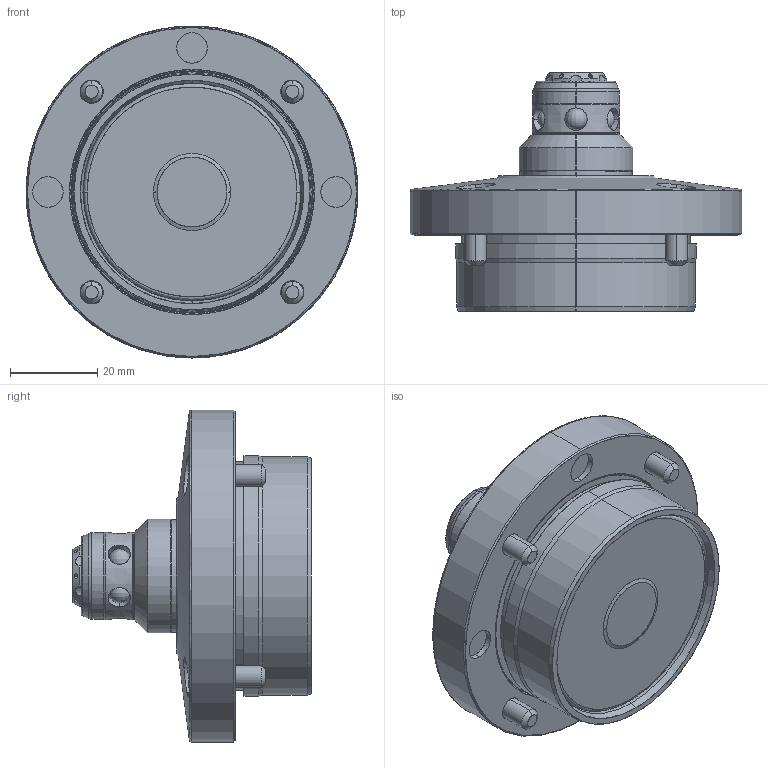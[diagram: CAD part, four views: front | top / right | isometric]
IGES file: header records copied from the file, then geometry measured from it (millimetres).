
Start section: SolidWorks IGES file using analytic representation for surfaces
Global section: file name: C:\Documents and Settings\D211\デスクトップ\IGES・STEP203変換用中間ﾌｫﾙﾀﾞ\SWT0030-MG.igs; native system: SolidWorks 2009; preprocessor: SolidWorks 2009; author: D211; date: 100804.162238; units: millimetre
Bounding box: 76 x 54.7 x 76 mm (x, y, z)
Surface area: 28958.6 mm2 (no closed solid volume)
Topology: 0 solids, 0 shells, 302 faces, 5163 edges, 5143 vertices
Faces by surface type: revolution 199, bspline 103
